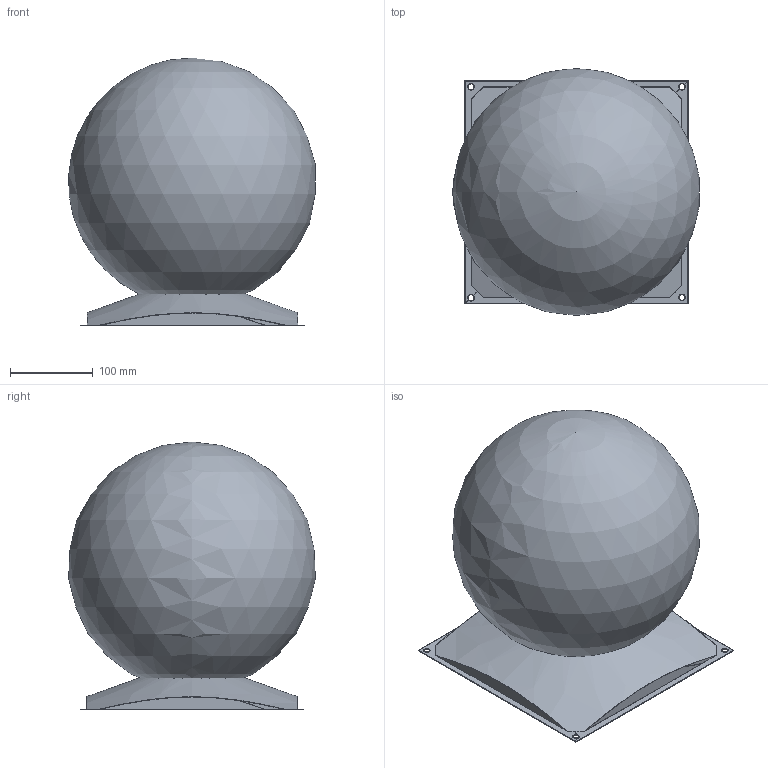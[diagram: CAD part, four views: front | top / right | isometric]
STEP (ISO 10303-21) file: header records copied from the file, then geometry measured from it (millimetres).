
FILE_DESCRIPTION(/* description */ (''),/* implementation_level */ '2;1');
FILE_NAME(/* name */ 'C:/Users/LukasGröber/GMS Cloud/Groeber Mannheim Lichtwerke - Dokumente/Marketing/Produkte/3D Daten/Snowball Edelstahlfuß/Snowball 30 Edelstahlfuß.step',/* time_stamp */ '2022-07-07T08:32:23+02:00',/* author */ (''),/* organization */ (''),/* preprocessor_version */ 'ST-DEVELOPER v19',/* originating_system */ 'Autodesk Translation Framework v11.7.0.108',/* authorisation */ '');
FILE_SCHEMA (('AUTOMOTIVE_DESIGN { 1 0 10303 214 3 1 1 }'));
Length unit declared in the file: millimetre
Products named in the file (3): Snowball 30 Edelstahlfuß; Edelstahlfuss-optisch; Snowball 300 Öffnung 80
Assembly tree (2 placements, depth 2):
  Snowball 30 Edelstahlfuß
    Edelstahlfuss-optisch
    Snowball 300 Öffnung 80
Bounding box: 298.3 x 298.54 x 324.17 mm (x, y, z)
Volume: 990700.8 mm3; surface area: 715991.8 mm2
Topology: 2 solids, 2 shells, 61 faces, 168 edges, 107 vertices
Faces by surface type: plane 46, cylinder 9, cone 4, sphere 2
Full cylindrical faces by diameter (mm): 7 x4, 8 x4, 82.828 x1
Entity records: 2019 total; most frequent: CARTESIAN_POINT 383, ORIENTED_EDGE 332, DIRECTION 330, EDGE_CURVE 166, AXIS2_PLACEMENT_3D 120, VERTEX_POINT 107, LINE 90, VECTOR 90
